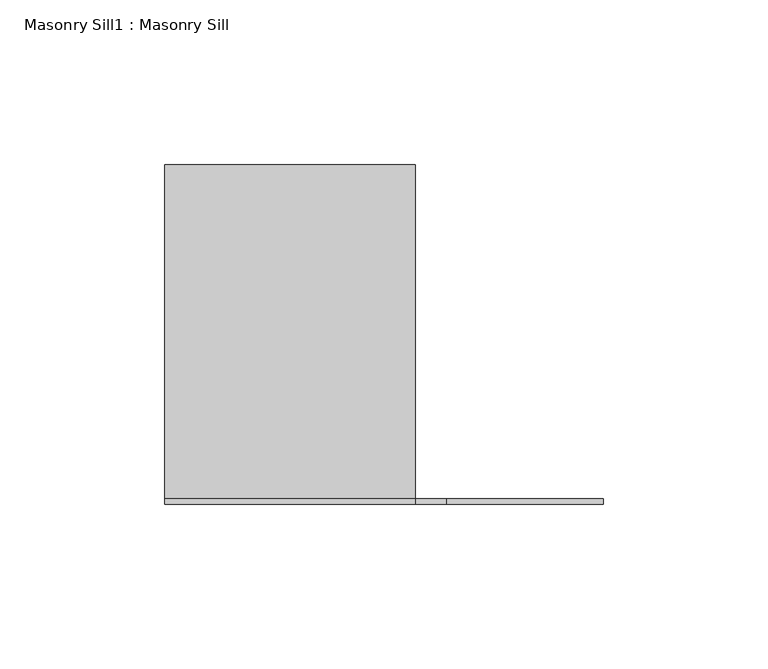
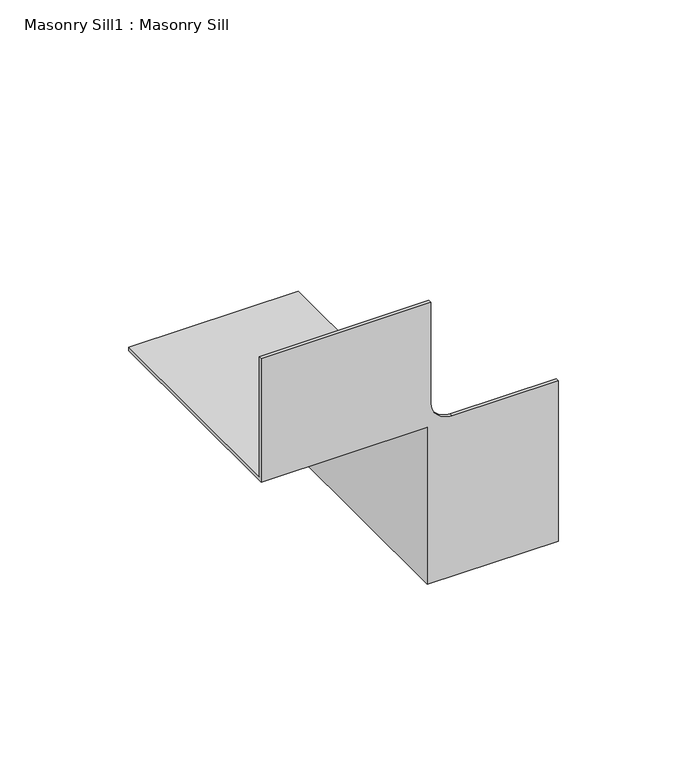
"""IFC4 building model written with IfcOpenShell, lengths in millimetres: proxy geometry, Masonry Sill1 : Masonry Sill."""

import ifcopenshell
import ifcopenshell.guid

model = None  # the IFC model being written
_history = None  # IfcOwnerHistory: only IFC2X3 demands one
_inside = {}  # id of a spatial element -> (the spatial element, [elements in it])
_under = {}  # id of a project, library or spatial element -> (it, [spatial elements below it])
_declared = {}  # id of a project -> (the project, [libraries it declares])
_typed = {}  # id of a type object -> (the type object, [elements of that type])
_made_of = {}  # id of a material, layer set ... -> (it, [elements and type objects made of it])


def new_model(schema):
    """Start an empty IFC model of exactly this schema.

    Asked for "IFC4X3", IfcOpenShell would pick the latest addendum, in which some entities
    have other attributes; the version numbers below select the first issue.
    IFC2X3 requires an IfcOwnerHistory on every rooted entity: one is made here for all.
    """
    global model, _history
    if schema == "IFC4X3":
        model = ifcopenshell.file(schema_version=(4, 3, 0, 0))
    else:
        model = ifcopenshell.file(schema=schema)
    _inside.clear()
    _under.clear()
    _declared.clear()
    _typed.clear()
    _made_of.clear()
    _history = None
    if model.schema == "IFC2X3":
        org = make("IfcOrganization", Name="unknown")
        user = make(
            "IfcPersonAndOrganization",
            ThePerson=make("IfcPerson", FamilyName="unknown"),
            TheOrganization=org,
        )
        app = make(
            "IfcApplication",
            ApplicationDeveloper=org,
            Version="unknown",
            ApplicationFullName="unknown",
            ApplicationIdentifier="unknown",
        )
        _history = make(
            "IfcOwnerHistory",
            OwningUser=user,
            OwningApplication=app,
            ChangeAction="ADDED",
            CreationDate=0,
        )
    return model


def make(cls, **values):
    """One entity of the class cls with the attributes given. An attribute that is None is left unset."""
    return model.create_entity(
        cls, **{name: value for name, value in values.items() if value is not None}
    )


def rooted(cls, **values):
    """An entity with a GlobalId (a new one), such as an element, a storey or a relation."""
    return make(cls, GlobalId=ifcopenshell.guid.new(), OwnerHistory=_history, **values)


def si_unit(unit_type, name, prefix=None):
    """IfcSIUnit, for example si_unit("LENGTHUNIT", "METRE", prefix="MILLI")."""
    return make("IfcSIUnit", UnitType=unit_type, Prefix=prefix, Name=name)


def assignment(units):
    """IfcUnitAssignment: the units of a project."""
    return None if units is None else make("IfcUnitAssignment", Units=units)


def point(xyz):
    """IfcCartesianPoint."""
    return None if xyz is None else make("IfcCartesianPoint", Coordinates=xyz)


def direction(xyz):
    """IfcDirection."""
    return None if xyz is None else make("IfcDirection", DirectionRatios=xyz)


def frame(location, z_axis=None, x_axis=None):
    """IfcAxis2Placement3D, a coordinate frame: its origin and axes. An axis left out is left unset."""
    return make(
        "IfcAxis2Placement3D",
        Location=point(location),
        Axis=direction(z_axis),
        RefDirection=direction(x_axis),
    )


def origin():
    """The frame at (0, 0, 0) with its axes left unset."""
    return frame((0.0, 0.0, 0.0))


def place(relative_to, where):
    """IfcLocalPlacement: puts the frame where relative to a parent placement (None: the world)."""
    return make(
        "IfcLocalPlacement", PlacementRelTo=relative_to, RelativePlacement=where
    )


def context(
    kind, dimensions, precision=None, world=None, true_north=None, identifier=None
):
    """IfcGeometricRepresentationContext, for example the 3D "Model" context."""
    return make(
        "IfcGeometricRepresentationContext",
        ContextIdentifier=identifier,
        ContextType=kind,
        CoordinateSpaceDimension=dimensions,
        Precision=precision,
        WorldCoordinateSystem=world,
        TrueNorth=true_north,
    )


def project(units=None, contexts=None):
    """IfcProject with its units and contexts."""
    return rooted(
        "IfcProject",
        Name="project",
        RepresentationContexts=contexts,
        UnitsInContext=assignment(units),
    )


def spatial(cls, under=None, at=None, **own):
    """A site, building, storey or space (cls), placed at a placement, below another one or the project."""
    s = rooted(cls, ObjectPlacement=at, **own)
    if under is not None:
        _under.setdefault(under.id(), (under, []))[1].append(s)
    return s


def polyline(points):
    """IfcPolyline through the points."""
    return make("IfcPolyline", Points=[point(p) for p in points])


def circle_curve(where, radius):
    """IfcCircle in the frame where."""
    return make("IfcCircle", Position=where, Radius=radius)


def shape(context_of_items, identifier, shape_type, items):
    """IfcShapeRepresentation: the items that make up one representation, for example the "Body"."""
    return make(
        "IfcShapeRepresentation",
        ContextOfItems=context_of_items,
        RepresentationIdentifier=identifier,
        RepresentationType=shape_type,
        Items=items,
    )


def source(mapping_origin, context_of_items, identifier, shape_type, items):
    """IfcRepresentationMap: a shape defined once, which mapped items show again and again."""
    return make(
        "IfcRepresentationMap",
        MappingOrigin=mapping_origin,
        MappedRepresentation=shape(context_of_items, identifier, shape_type, items),
    )


def transform(
    local_origin,
    x_axis=None,
    y_axis=None,
    z_axis=None,
    scale=None,
    scale2=None,
    scale3=None,
    uniform=True,
):
    """IfcCartesianTransformationOperator3D, or its non-uniform kind. x_axis, y_axis, z_axis: its Axis1, 2, 3."""
    if uniform:
        return make(
            "IfcCartesianTransformationOperator3D",
            Axis1=direction(x_axis),
            Axis2=direction(y_axis),
            LocalOrigin=point(local_origin),
            Scale=scale,
            Axis3=direction(z_axis),
        )
    return make(
        "IfcCartesianTransformationOperator3DnonUniform",
        Axis1=direction(x_axis),
        Axis2=direction(y_axis),
        LocalOrigin=point(local_origin),
        Scale=scale,
        Axis3=direction(z_axis),
        Scale2=scale2,
        Scale3=scale3,
    )


def mapped(mapping_source, mapping_target):
    """IfcMappedItem: shows the shape of a source again, moved by a transform."""
    return make(
        "IfcMappedItem", MappingSource=mapping_source, MappingTarget=mapping_target
    )


def made_of(thing, what):
    """Note that an element or type object is made of a material, layer set ...; save() writes the relation."""
    if what is not None:
        _made_of.setdefault(what.id(), (what, []))[1].append(thing)
    return thing


def element(
    cls,
    number,
    at=None,
    inside=None,
    cuts=None,
    type_object=None,
    material=None,
    context=None,
    identifier="Body",
    shape_type=None,
    held_by="IfcProductDefinitionShape",
    body=None,
    shapes=None,
    **own,
):
    """One element of the class cls, such as IfcWall. Its Tag is "e" and its number.

    at: its placement. inside: the storey or other place that contains it. cuts: it is an
    opening in that element (IfcRelVoidsElement). A single representation is given by context,
    identifier, shape_type and body (its items); several are given by shapes. held_by: the class
    of the entity that holds the representations. save() writes the other relations.
    """
    e = rooted(cls, Tag="e%d" % number, ObjectPlacement=at, **own)
    if body is not None:
        shapes = [shape(context, identifier, shape_type, body)]
    if shapes is not None:
        e.Representation = make(held_by, Representations=shapes)
    if inside is not None:
        _inside.setdefault(inside.id(), (inside, []))[1].append(e)
    if cuts is not None:
        rooted(
            "IfcRelVoidsElement", RelatingBuildingElement=cuts, RelatedOpeningElement=e
        )
    if type_object is not None:
        _typed.setdefault(type_object.id(), (type_object, []))[1].append(e)
    return made_of(e, material)


def aggregate(whole, parts):
    """IfcRelAggregates: a whole, such as a stair, and the parts it consists of."""
    return rooted("IfcRelAggregates", RelatingObject=whole, RelatedObjects=parts)


def save(model, path):
    """Write the relations noted so far, then the file.

    IfcRelAggregates (storeys below a building ...), IfcRelContainedInSpatialStructure (elements
    in a storey), IfcRelDefinesByType, IfcRelAssociatesMaterial and IfcRelDeclares: one each for
    every whole, place, type object, material and project.
    """
    for whole, parts in _under.values():
        aggregate(whole, parts)
    for where, things in _inside.values():
        rooted(
            "IfcRelContainedInSpatialStructure",
            RelatedElements=things,
            RelatingStructure=where,
        )
    for kind, things in _typed.values():
        rooted("IfcRelDefinesByType", RelatedObjects=things, RelatingType=kind)
    for what, things in _made_of.values():
        rooted("IfcRelAssociatesMaterial", RelatedObjects=things, RelatingMaterial=what)
    for by, libraries in _declared.values():
        rooted("IfcRelDeclares", RelatingContext=by, RelatedDefinitions=libraries)
    model.write(path)


def plane_surface(at):
    """IfcPlane: the flat surface through the origin of the frame at, square to its z axis."""
    return make("IfcPlane", Position=at)


def revolved_surface(curve, axis_point, axis_direction):
    """IfcSurfaceOfRevolution: the curve turned about the line through axis_point along axis_direction."""
    return make(
        "IfcSurfaceOfRevolution",
        SweptCurve=make("IfcArbitraryOpenProfileDef", ProfileType="CURVE", Curve=curve),
        AxisPosition=make("IfcAxis1Placement", Location=point(axis_point), Axis=direction(axis_direction)),
    )


def advanced_brep(points, edges, surfaces, faces):
    """IfcAdvancedBrep: a solid bounded by faces that lie on surfaces and meet in shared edges.

    An edge is (start, end): straight between two places in points (the first is 0);
    or (start, end, curve); or (start, end, curve, False) where it runs against its curve.
    A face is (place in surfaces, loops), or (place, loops, False) where it looks against
    its surface's normal. A loop lists edges by number (the first is 1), with a minus sign
    where the edge is run from its end to its start. The first loop is the outer one.
    """
    corners = [point(p) for p in points]
    vertices = [make("IfcVertexPoint", VertexGeometry=c) for c in corners]
    made = []
    for start, end, *more in edges:
        made.append(
            make(
                "IfcEdgeCurve",
                EdgeStart=vertices[start],
                EdgeEnd=vertices[end],
                EdgeGeometry=more[0] if more else make("IfcPolyline", Points=[corners[start], corners[end]]),
                SameSense=more[1] if len(more) > 1 else True,
            )
        )
    hull = []
    for where, loops, *sense in faces:
        bounds = []
        for j, loop in enumerate(loops):
            ring = [make("IfcOrientedEdge", EdgeElement=made[abs(k) - 1], Orientation=k > 0) for k in loop]
            bounds.append(
                make(
                    "IfcFaceOuterBound" if j == 0 else "IfcFaceBound",
                    Bound=make("IfcEdgeLoop", EdgeList=ring),
                    Orientation=True,
                )
            )
        hull.append(make("IfcAdvancedFace", Bounds=bounds, FaceSurface=surfaces[where], SameSense=sense[0] if sense else True))
    return make("IfcAdvancedBrep", Outer=make("IfcClosedShell", CfsFaces=hull))


def masonry_sill1_masonry_sill_665cf46e(model_context):
    return source(origin(), model_context, "Body", "AdvancedBrep", [
        advanced_brep(
        [(26781.2726773, 735.5816297, 304.8), (26857.4726773, 735.5816297, 304.8), (26857.4726773, 735.5816297, 228.6), (26855.8851773, 735.5816297, 228.6), (26855.8851773, 735.5816297, 303.2125), (26781.2726773, 735.5816297, 303.2125), (26781.2726773, 633.9816297, 304.8), (26857.4726773, 633.9816297, 304.8), (26857.4726773, 633.9816297, 228.6), (26914.6226773, 633.9816297, 228.6), (26914.6226773, 632.3941297, 228.6), (26855.8851773, 632.3941297, 228.6), (26855.8851773, 632.3941297, 303.2125), (26781.2726773, 632.3941297, 303.2125), (26781.2726773, 632.3941297, 361.95), (26781.2726773, 633.9816297, 361.95), (26914.6226773, 632.3941297, 304.8), (26866.9976773, 632.3941297, 304.8), (26857.4726773, 632.3941297, 314.325), (26857.4726773, 632.3941297, 361.95), (26857.4726773, 633.9816297, 361.95), (26857.4726773, 633.9816297, 314.325), (26866.9976773, 633.9816297, 304.8), (26914.6226773, 633.9816297, 304.8)],
        [
            (0, 1),
            (1, 2),
            (2, 3),
            (3, 4),
            (4, 5),
            (5, 0),
            (0, 6),
            (6, 7),
            (7, 1),
            (7, 8),
            (8, 2),
            (8, 9),
            (9, 10),
            (10, 11),
            (11, 3),
            (11, 12),
            (12, 4),
            (12, 13),
            (13, 5),
            (13, 14),
            (14, 15),
            (15, 6),
            (10, 16),
            (16, 17),
            (17, 18, circle_curve(frame((26866.9976773, 632.3941297, 314.325), z_axis=(0.0, 1.0, 0.0), x_axis=(1.0, 0.0, 0.0)), 9.525)),
            (18, 19),
            (19, 14),
            (15, 20),
            (20, 21),
            (21, 22, circle_curve(frame((26866.9976773, 633.9816297, 314.325), z_axis=(0.0, -1.0, 0.0), x_axis=(1.0, 0.0, 0.0)), 9.525)),
            (22, 23),
            (23, 9),
            (23, 16),
            (22, 17),
            (21, 18),
            (20, 19),
        ],
        [
            plane_surface(frame((26857.4726773, 735.5816297, 304.8), z_axis=(0.0, 1.0, 0.0), x_axis=(1.0, 0.0, 0.0))),
            plane_surface(frame((26781.2726773, 735.5816297, 304.8), z_axis=(0.0, 0.0, 1.0), x_axis=(0.0, -1.0, 0.0))),
            plane_surface(frame((26857.4726773, 735.5816297, 304.8), z_axis=(1.0, 0.0, 0.0), x_axis=(0.0, -1.0, 0.0))),
            plane_surface(frame((26857.4726773, 735.5816297, 228.6), z_axis=(0.0, 0.0, -1.0), x_axis=(0.0, -1.0, 0.0))),
            plane_surface(frame((26855.8851773, 735.5816297, 228.6), z_axis=(-1.0, 0.0, 0.0), x_axis=(0.0, -1.0, 0.0))),
            plane_surface(frame((26855.8851773, 735.5816297, 303.2125), z_axis=(0.0, 0.0, -1.0), x_axis=(0.0, -1.0, 0.0))),
            plane_surface(frame((26781.2726773, 735.5816297, 303.2125), z_axis=(-1.0, 0.0, 0.0), x_axis=(0.0, -1.0, 0.0))),
            plane_surface(frame((26781.2726773, 632.3941297, 303.2125), z_axis=(0.0, -1.0, 0.0), x_axis=(0.0, 0.0, -1.0))),
            plane_surface(frame((26781.2726773, 633.9816297, 303.2125), z_axis=(0.0, 1.0, 0.0), x_axis=(0.0, 0.0, 1.0))),
            plane_surface(frame((26914.6226773, 632.3941297, 228.6), z_axis=(1.0, 0.0, 0.0), x_axis=(0.0, 1.0, 0.0))),
            plane_surface(frame((26914.6226773, 632.3941297, 304.8), z_axis=(0.0, 0.0, 1.0), x_axis=(0.0, 1.0, 0.0))),
            revolved_surface(polyline([(26876.522677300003, 633.9816297, 314.325), (26876.522677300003, 632.3941297, 314.325)]), (26866.9976773, 633.9816297, 314.325), (0.0, 1.0, 0.0)),
            plane_surface(frame((26857.4726773, 632.3941297, 314.325), z_axis=(1.0, 0.0, 0.0), x_axis=(0.0, 1.0, 0.0))),
            plane_surface(frame((26857.4726773, 632.3941297, 361.95), z_axis=(0.0, 0.0, 1.0), x_axis=(0.0, 1.0, 0.0))),
        ],
        [
            (0, [[1, 2, 3, 4, 5, 6]]),
            (1, [[-1, 7, 8, 9]]),
            (2, [[-2, -9, 10, 11]]),
            (3, [[-3, -11, 12, 13, 14, 15]]),
            (4, [[-4, -15, 16, 17]]),
            (5, [[-5, -17, 18, 19]]),
            (6, [[-6, -19, 20, 21, 22, -7]]),
            (7, [[-20, -18, -16, -14, 23, 24, 25, 26, 27]]),
            (8, [[28, 29, 30, 31, 32, -12, -10, -8, -22]]),
            (9, [[-23, -13, -32, 33]]),
            (10, [[-24, -33, -31, 34]]),
            (11, [[-25, -34, -30, 35]]),
            (12, [[-26, -35, -29, 36]]),
            (13, [[-27, -36, -28, -21]]),
        ],
    ),
    ])


if __name__ == "__main__":
    model = new_model("IFC4")
    model_context = context("Model", 3, world=origin())
    ifc_project = project(units=[si_unit("LENGTHUNIT", "METRE", prefix="MILLI")], contexts=[model_context])
    site = spatial("IfcSite", under=ifc_project)
    building = spatial("IfcBuilding", under=site)
    placement = place(None, origin())
    masonry_sill1_masonry_sill_shape = masonry_sill1_masonry_sill_665cf46e(model_context)
    element("IfcBuildingElementProxy", 1, Name="Masonry Sill1 : Masonry Sill", ObjectType="Masonry Sill1 : Masonry Sill", at=placement, inside=building, context=model_context, shape_type="MappedRepresentation", body=[
        mapped(masonry_sill1_masonry_sill_shape, transform((0.0, 0.0, 0.0), x_axis=(1.0, 0.0, 0.0), y_axis=(0.0, 1.0, 0.0), z_axis=(0.0, 0.0, 1.0))),
    ])
    save(model, "model.ifc")
